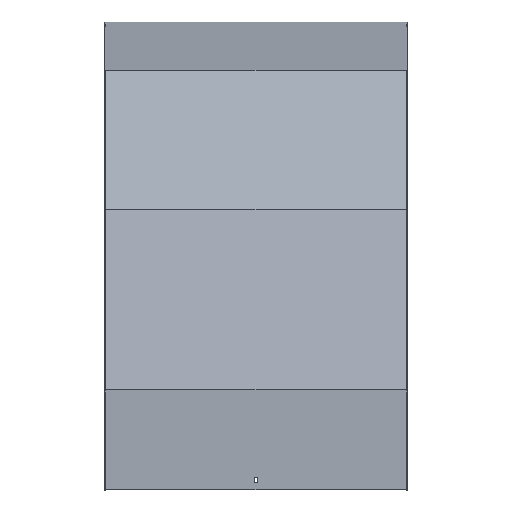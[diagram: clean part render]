
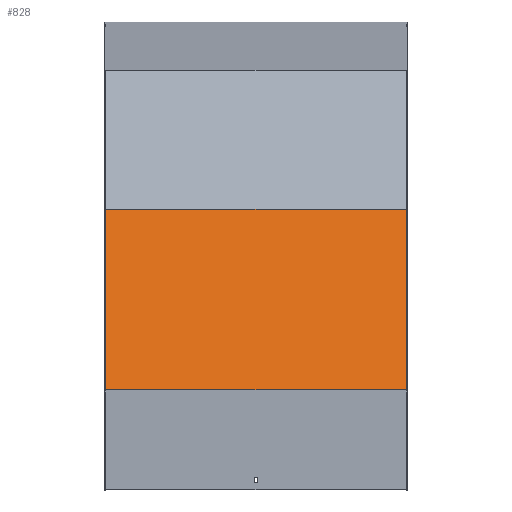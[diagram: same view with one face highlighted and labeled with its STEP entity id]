
A CAD part, top view. The second image highlights one B-rep face of the part: STEP entity #828.
In plain terms, the highlighted planar face has unit normal (0, 0.259, 0.966).
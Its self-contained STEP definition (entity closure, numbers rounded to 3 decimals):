
#46 = DIRECTION ( 'NONE',  ( -1., 0., 0. ) ) ;
#67 = AXIS2_PLACEMENT_3D ( 'NONE', #1020, #905, #147 ) ;
#121 = CARTESIAN_POINT ( 'NONE',  ( 251.5, -593.325, 779.958 ) ) ;
#123 = DIRECTION ( 'NONE',  ( -1., 0., 0. ) ) ;
#129 = PLANE ( 'NONE',  #67 ) ;
#147 = DIRECTION ( 'NONE',  ( 0., 0.966, -0.259 ) ) ;
#161 = CARTESIAN_POINT ( 'NONE',  ( 251.5, -298.106, 700.854 ) ) ;
#179 = EDGE_CURVE ( 'NONE', #720, #602, #692, .T. ) ;
#187 = VERTEX_POINT ( 'NONE', #421 ) ;
#221 = CARTESIAN_POINT ( 'NONE',  ( -251.5, -298.106, 700.854 ) ) ;
#294 = VERTEX_POINT ( 'NONE', #799 ) ;
#325 = FACE_OUTER_BOUND ( 'NONE', #994, .T. ) ;
#383 = LINE ( 'NONE', #997, #390 ) ;
#390 = VECTOR ( 'NONE', #123, 1000. ) ;
#421 = CARTESIAN_POINT ( 'NONE',  ( -251.5, -292.929, 699.467 ) ) ;
#476 = EDGE_CURVE ( 'NONE', #602, #294, #383, .T. ) ;
#534 = EDGE_CURVE ( 'NONE', #187, #294, #574, .T. ) ;
#574 = LINE ( 'NONE', #221, #921 ) ;
#602 = VERTEX_POINT ( 'NONE', #121 ) ;
#614 = VECTOR ( 'NONE', #669, 1000. ) ;
#654 = CARTESIAN_POINT ( 'NONE',  ( 251.5, -292.929, 699.467 ) ) ;
#669 = DIRECTION ( 'NONE',  ( 0., -0.966, 0.259 ) ) ;
#689 = EDGE_CURVE ( 'NONE', #720, #187, #823, .T. ) ;
#692 = LINE ( 'NONE', #161, #614 ) ;
#706 = ORIENTED_EDGE ( 'NONE', *, *, #689, .T. ) ;
#720 = VERTEX_POINT ( 'NONE', #836 ) ;
#744 = ORIENTED_EDGE ( 'NONE', *, *, #534, .T. ) ;
#757 = ORIENTED_EDGE ( 'NONE', *, *, #179, .F. ) ;
#799 = CARTESIAN_POINT ( 'NONE',  ( -251.5, -593.325, 779.958 ) ) ;
#800 = VECTOR ( 'NONE', #46, 1000. ) ;
#823 = LINE ( 'NONE', #654, #800 ) ;
#828 = ADVANCED_FACE ( 'NONE', ( #325 ), #129, .F. ) ;
#836 = CARTESIAN_POINT ( 'NONE',  ( 251.5, -292.929, 699.467 ) ) ;
#850 = ORIENTED_EDGE ( 'NONE', *, *, #476, .F. ) ;
#894 = DIRECTION ( 'NONE',  ( 0., -0.966, 0.259 ) ) ;
#905 = DIRECTION ( 'NONE',  ( 0., -0.259, -0.966 ) ) ;
#921 = VECTOR ( 'NONE', #894, 1000. ) ;
#994 = EDGE_LOOP ( 'NONE', ( #744, #850, #757, #706 ) ) ;
#997 = CARTESIAN_POINT ( 'NONE',  ( 251.5, -593.325, 779.958 ) ) ;
#1020 = CARTESIAN_POINT ( 'NONE',  ( 251.5, -298.106, 700.854 ) ) ;
